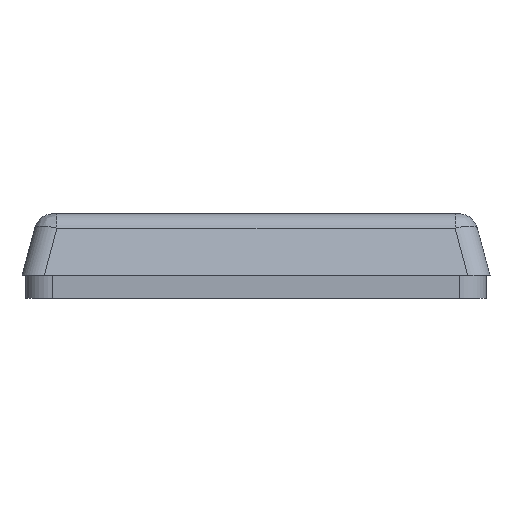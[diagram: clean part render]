
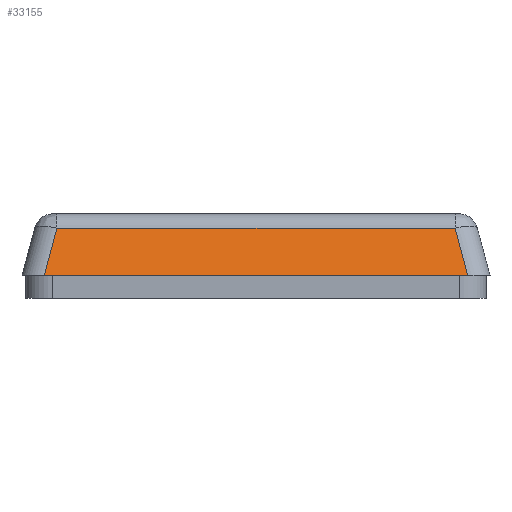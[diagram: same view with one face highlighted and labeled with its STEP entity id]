
A CAD part, left-side view. The second image highlights one B-rep face of the part: STEP entity #33155.
In plain terms, the highlighted planar face has unit normal (-0.966, 0, 0.259).
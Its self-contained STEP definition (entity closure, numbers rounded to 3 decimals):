
#1569=PLANE('',#36326);
#3894=LINE('',#56566,#6599);
#3903=LINE('',#56653,#6608);
#3905=LINE('',#56686,#6610);
#3906=LINE('',#56688,#6611);
#6599=VECTOR('',#44566,10.);
#6608=VECTOR('',#44607,10.);
#6610=VECTOR('',#44619,10.);
#6611=VECTOR('',#44622,10.);
#9779=FACE_OUTER_BOUND('',#11987,.T.);
#11987=EDGE_LOOP('',(#29006,#29007,#29008,#29009));
#16548=VERTEX_POINT('',#56563);
#16549=VERTEX_POINT('',#56565);
#16560=VERTEX_POINT('',#56646);
#16562=VERTEX_POINT('',#56682);
#20866=EDGE_CURVE('',#16548,#16549,#3894,.T.);
#20887=EDGE_CURVE('',#16560,#16548,#3903,.T.);
#20891=EDGE_CURVE('',#16549,#16562,#3905,.T.);
#20892=EDGE_CURVE('',#16562,#16560,#3906,.T.);
#29006=ORIENTED_EDGE('',*,*,#20887,.F.);
#29007=ORIENTED_EDGE('',*,*,#20892,.F.);
#29008=ORIENTED_EDGE('',*,*,#20891,.F.);
#29009=ORIENTED_EDGE('',*,*,#20866,.F.);
#33155=ADVANCED_FACE('',(#9779),#1569,.F.);
#36326=AXIS2_PLACEMENT_3D('',#56689,#44623,#44624);
#44566=DIRECTION('',(0.,1.,0.));
#44607=DIRECTION('',(-0.251,-0.251,-0.935));
#44619=DIRECTION('',(0.251,-0.251,0.935));
#44622=DIRECTION('',(0.,-1.,0.));
#44623=DIRECTION('center_axis',(0.966,0.,-0.259));
#44624=DIRECTION('ref_axis',(-0.259,0.,-0.966));
#56563=CARTESIAN_POINT('',(-61.5,-27.602,-4.));
#56565=CARTESIAN_POINT('',(-61.5,27.602,-4.));
#56566=CARTESIAN_POINT('',(-61.5,15.25,-4.));
#56646=CARTESIAN_POINT('',(-59.853,-25.955,2.147));
#56653=CARTESIAN_POINT('',(-58.223,-24.326,8.228));
#56682=CARTESIAN_POINT('',(-59.853,25.955,2.147));
#56686=CARTESIAN_POINT('',(-56.277,22.379,15.492));
#56688=CARTESIAN_POINT('',(-59.853,30.5,2.147));
#56689=CARTESIAN_POINT('Origin',(-59.853,30.5,2.147));
